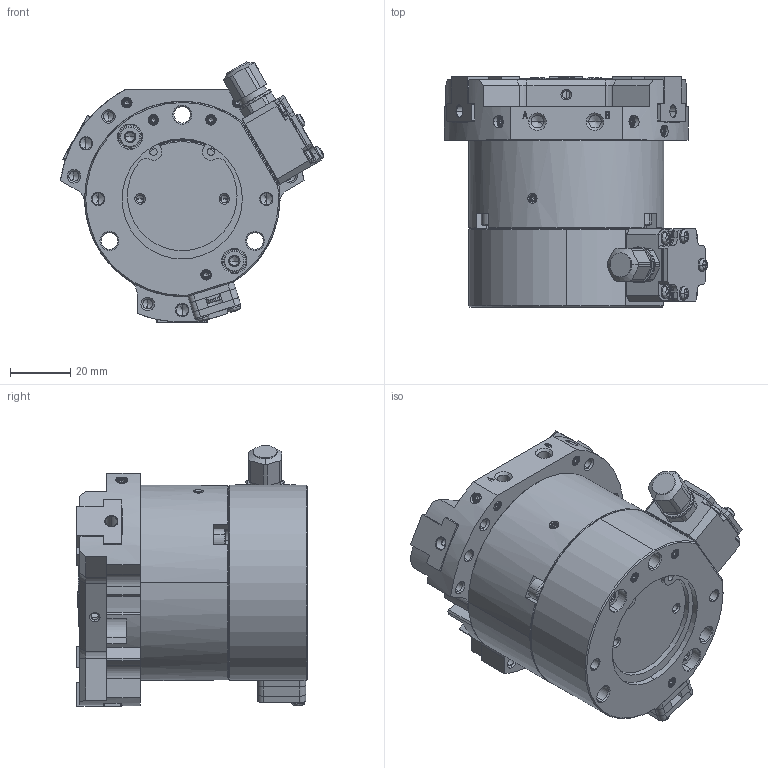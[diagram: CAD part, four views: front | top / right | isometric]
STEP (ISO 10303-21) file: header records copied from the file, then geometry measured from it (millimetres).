
FILE_DESCRIPTION (( 'STEP AP214' ), '1' );
FILE_NAME ('NTS307S-UC.STEP', '2026-03-27T01:30:31', ( '' ), ( '' ), 'SwSTEP 2.0', 'SolidWorks 2022', '' );
FILE_SCHEMA (( 'AUTOMOTIVE_DESIGN' ));
Length unit declared in the file: millimetre
Products named in the file (27): SENSOR CASE^HP-NTS307S; SCREW1^HP-NTS307S; BODY^HP-NTS307S_NTS307S(刻印); WASHER^HP-NTS307S; SILENCER COVER B^HP-NTS307S; CONNECOR COVER^HP-NTS307S; BOLT2^HP-NTS307S; SHEET GASKET A^HP-NTS307S; COVER^HP-NTS307S; SCREW2^HP-NTS307S; MASTER JAW^HP-NTS307S; CONNECTOR^HP-NTS307S; SCREW4^HP-NTS307S; SILENCER^HP-NTS307S; SCREW3^HP-NTS307S; RETAINING RING^HP-NTS307S; SILENCER COVER A^HP-NTS307S; BOLT1^HP-NTS307S; SET SCREW3^HP-NTS307S; NTS307S-UC; CAPCON^HP-NTS307S; SILENCER COVER C^HP-NTS307S; SET SCREW1^HP-NTS307S; SHEET GASKET B^HP-NTS307S; SET SCREW2^HP-NTS307S; SENSOR COVER^HP-NTS307S; REAR BODY^HP-NTS307S
Assembly tree (46 placements, depth 2):
  NTS307S-UC
    BODY^HP-NTS307S_NTS307S(刻印)
    MASTER JAW^HP-NTS307S  x3
    COVER^HP-NTS307S
    REAR BODY^HP-NTS307S
    SENSOR CASE^HP-NTS307S
    SENSOR COVER^HP-NTS307S
    CONNECTOR^HP-NTS307S
    CONNECOR COVER^HP-NTS307S
    SHEET GASKET A^HP-NTS307S
    SILENCER COVER A^HP-NTS307S
    SILENCER COVER B^HP-NTS307S
    SILENCER COVER C^HP-NTS307S
    SHEET GASKET B^HP-NTS307S
    BOLT1^HP-NTS307S  x2
    BOLT2^HP-NTS307S  x3
    SCREW1^HP-NTS307S  x2
    SCREW2^HP-NTS307S  x4
    SCREW3^HP-NTS307S  x3
    SET SCREW1^HP-NTS307S  x6
    SET SCREW2^HP-NTS307S
    SILENCER^HP-NTS307S
    RETAINING RING^HP-NTS307S
    CAPCON^HP-NTS307S
    WASHER^HP-NTS307S
    SCREW4^HP-NTS307S  x3
    SET SCREW3^HP-NTS307S  x3
Bounding box: 87.61 x 76.7 x 86.79 mm (x, y, z)
Volume: 248055.2 mm3; surface area: 79134.5 mm2
Topology: 46 solids, 46 shells, 2906 faces, 7658 edges, 4875 vertices
Faces by surface type: plane 1733, cylinder 492, cone 486, bspline 193, torus 2
Entity records: 83783 total; most frequent: CARTESIAN_POINT 22280, ORIENTED_EDGE 12732, DIRECTION 11466, EDGE_CURVE 6366, LINE 4738, VECTOR 4738, VERTEX_POINT 4124, AXIS2_PLACEMENT_3D 3364
